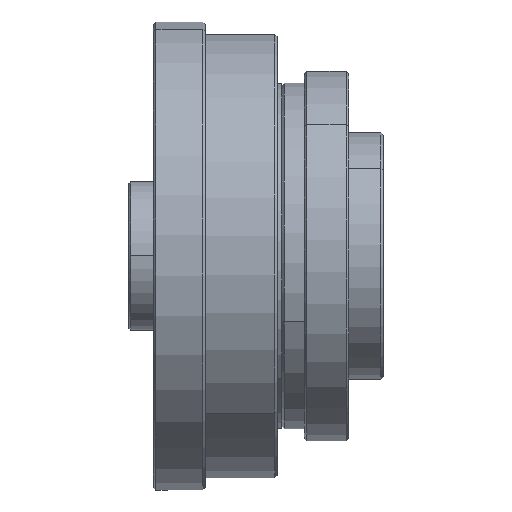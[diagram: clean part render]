
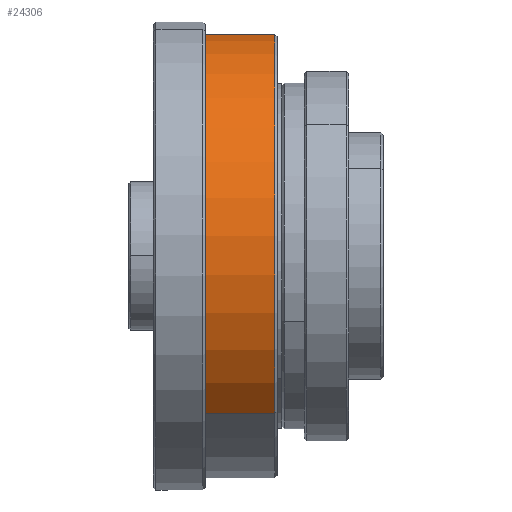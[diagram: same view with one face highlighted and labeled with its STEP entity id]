
A CAD part, top view. The second image highlights one B-rep face of the part: STEP entity #24306.
In plain terms, the highlighted cylindrical face has radius 45 mm (diameter 90 mm), a partial arc.
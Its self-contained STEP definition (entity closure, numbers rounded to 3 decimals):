
#494 = DIRECTION ( 'NONE',  ( 0., -0.707, 0.707 ) ) ;
#572 = CARTESIAN_POINT ( 'NONE',  ( 13., -31.82, 31.82 ) ) ;
#879 = DIRECTION ( 'NONE',  ( 0., 0.707, -0.707 ) ) ;
#1513 = LINE ( 'NONE', #21677, #17640 ) ;
#1640 = DIRECTION ( 'NONE',  ( 1., 0., 0. ) ) ;
#1908 = CYLINDRICAL_SURFACE ( 'NONE', #2657, 45. ) ;
#2351 = VECTOR ( 'NONE', #6540, 1000. ) ;
#2451 = VERTEX_POINT ( 'NONE', #6226 ) ;
#2657 = AXIS2_PLACEMENT_3D ( 'NONE', #4773, #25672, #15231 ) ;
#3672 = EDGE_CURVE ( 'NONE', #2451, #5888, #9606, .T. ) ;
#4773 = CARTESIAN_POINT ( 'NONE',  ( -60.314, 0., 0. ) ) ;
#5074 = ORIENTED_EDGE ( 'NONE', *, *, #3672, .T. ) ;
#5888 = VERTEX_POINT ( 'NONE', #26760 ) ;
#6196 = CARTESIAN_POINT ( 'NONE',  ( -3.5, 0., 0. ) ) ;
#6226 = CARTESIAN_POINT ( 'NONE',  ( -3.5, 31.82, -31.82 ) ) ;
#6540 = DIRECTION ( 'NONE',  ( -1., 0., 0. ) ) ;
#6723 = EDGE_LOOP ( 'NONE', ( #9114, #8410, #5074, #14104 ) ) ;
#8410 = ORIENTED_EDGE ( 'NONE', *, *, #12267, .T. ) ;
#8708 = AXIS2_PLACEMENT_3D ( 'NONE', #24457, #27204, #494 ) ;
#9114 = ORIENTED_EDGE ( 'NONE', *, *, #19491, .T. ) ;
#9285 = CARTESIAN_POINT ( 'NONE',  ( 13., 31.82, -31.82 ) ) ;
#9606 = CIRCLE ( 'NONE', #24186, 45. ) ;
#9765 = DIRECTION ( 'NONE',  ( -1., 0., 0. ) ) ;
#12267 = EDGE_CURVE ( 'NONE', #15624, #2451, #1513, .T. ) ;
#13149 = FACE_OUTER_BOUND ( 'NONE', #6723, .T. ) ;
#14104 = ORIENTED_EDGE ( 'NONE', *, *, #18506, .F. ) ;
#15231 = DIRECTION ( 'NONE',  ( 0., -0.707, 0.707 ) ) ;
#15624 = VERTEX_POINT ( 'NONE', #9285 ) ;
#17035 = VERTEX_POINT ( 'NONE', #572 ) ;
#17640 = VECTOR ( 'NONE', #9765, 1000. ) ;
#18455 = CIRCLE ( 'NONE', #8708, 45. ) ;
#18506 = EDGE_CURVE ( 'NONE', #17035, #5888, #19798, .T. ) ;
#19055 = CARTESIAN_POINT ( 'NONE',  ( -60.314, -31.82, 31.82 ) ) ;
#19491 = EDGE_CURVE ( 'NONE', #17035, #15624, #18455, .T. ) ;
#19798 = LINE ( 'NONE', #19055, #2351 ) ;
#21677 = CARTESIAN_POINT ( 'NONE',  ( -60.314, 31.82, -31.82 ) ) ;
#24186 = AXIS2_PLACEMENT_3D ( 'NONE', #6196, #1640, #879 ) ;
#24306 = ADVANCED_FACE ( 'NONE', ( #13149 ), #1908, .T. ) ;
#24457 = CARTESIAN_POINT ( 'NONE',  ( 13., 0., 0. ) ) ;
#25672 = DIRECTION ( 'NONE',  ( -1., 0., 0. ) ) ;
#26760 = CARTESIAN_POINT ( 'NONE',  ( -3.5, -31.82, 31.82 ) ) ;
#27204 = DIRECTION ( 'NONE',  ( -1., 0., 0. ) ) ;
